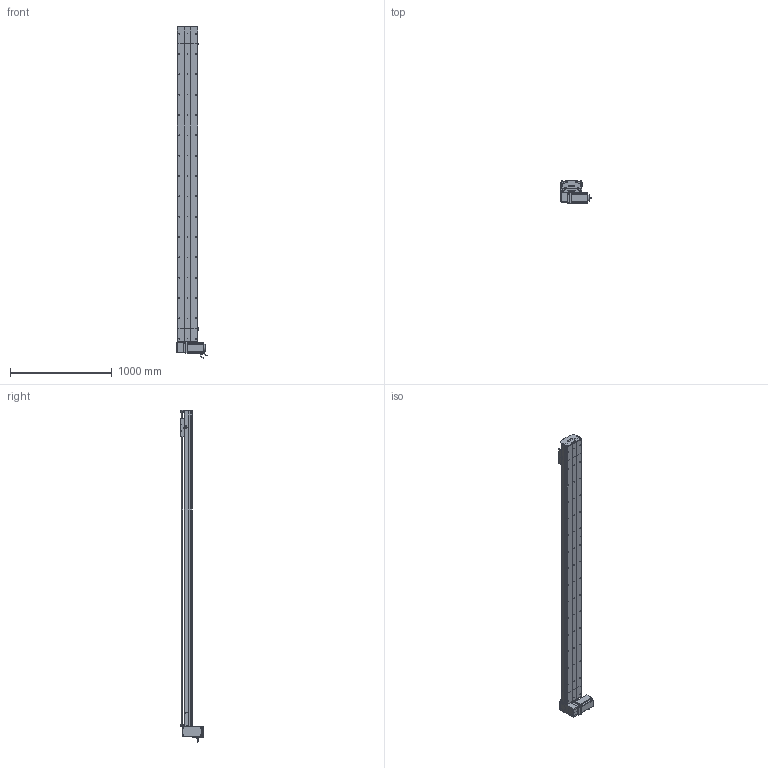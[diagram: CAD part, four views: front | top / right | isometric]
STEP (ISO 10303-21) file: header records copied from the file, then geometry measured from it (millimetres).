
FILE_DESCRIPTION (( 'STEP AP214' ), '1' );
FILE_NAME ('D20 TBH RU S2800.STEP', '2010-07-01T08:19:44', ( 'Conseil Régional Haute-Normandie' ), ( 'Conseil Régional Haute-Normandie' ), 'SwSTEP 2.0', 'SolidWorks 2010', '' );
FILE_SCHEMA (( 'AUTOMOTIVE_DESIGN' ));
Length unit declared in the file: millimetre
Products named in the file (40): vis M5 L12_Default; couvercle head D20_Default; vis M8 L12_Default; clavette; poulie head D20_Default; cache arbre D20_Default; Conecteur_Default; plaque de  bout head D20B RU_Default; couroie_Default; cache D20_Default; vis M5 L5_Default; avant 110BLDC170A-630x; Moteur motionking 110BLDC170A-640x; Conecteur2_Default; codeur 110BLDC170A-630x; corps 110BLDC170A-630x; vis M5 L25_Default; vis M5 L70_Default; Plaque racord D20LH_Default; Renvoi RU D20_Default; D20 TBH RU S2800; guide D20B; Chariot D20B; chariot D20B_Default; couvercle D20 S2800_Default; corp D20 S2800_Default; Course B L2800_Default; corpl tail D20_Default; tail D20_Default; rail + couroie  D20 S2800; Couroie tail D20_Default; plaque de  bout tail D20_Default; poulie tail D20_Default; vis M5 L8 90°_Default; tete d''axe poulie D20B; couvercle tail D20_Default; rail head D20; corpl head D20_Default; head RU_Default; rail tail D20
Assembly tree (71 placements, depth 4):
  D20 TBH RU S2800
    tail D20_Default
      vis M5 L25_Default  x2
      vis M5 L12_Default  x4
      poulie tail D20_Default
      rail tail D20
      plaque de  bout tail D20_Default
      vis M5 L8 90°_Default  x2
      Couroie tail D20_Default
      tete d''axe poulie D20B
      couvercle tail D20_Default
      corpl tail D20_Default
    head RU_Default
      vis M5 L70_Default  x4
      Plaque racord D20LH_Default
      vis M5 L5_Default  x4
      plaque de  bout head D20B RU_Default
      poulie head D20_Default
      vis M5 L12_Default  x10
      Renvoi RU D20_Default
      cache arbre D20_Default
      vis M5 L25_Default  x2
      cache D20_Default  x2
      rail head D20
      vis M8 L12_Default  x4
      couroie_Default
      corpl head D20_Default
      Moteur motionking 110BLDC170A-640x
        clavette
        codeur 110BLDC170A-630x
        Conecteur2_Default
        corps 110BLDC170A-630x
        Conecteur_Default
        avant 110BLDC170A-630x
      couvercle head D20_Default
    Course B L2800_Default
      couvercle D20 S2800_Default
      corp D20 S2800_Default
      rail + couroie  D20 S2800
    chariot D20B_Default
      vis M5 L12_Default  x4
      Chariot D20B
      guide D20B  x2
Bounding box: 304.2 x 223.2 x 3265 mm (x, y, z)
Volume: 25715535.7 mm3; surface area: 6322054.7 mm2
Topology: 95 solids, 95 shells, 2845 faces, 7299 edges, 4717 vertices
Faces by surface type: plane 1638, cylinder 883, bspline 136, cone 99, torus 89
Entity records: 91756 total; most frequent: CARTESIAN_POINT 29793, ORIENTED_EDGE 11254, DIRECTION 10576, EDGE_CURVE 5627, VERTEX_POINT 3703, VECTOR 3572, LINE 3572, AXIS2_PLACEMENT_3D 3502
